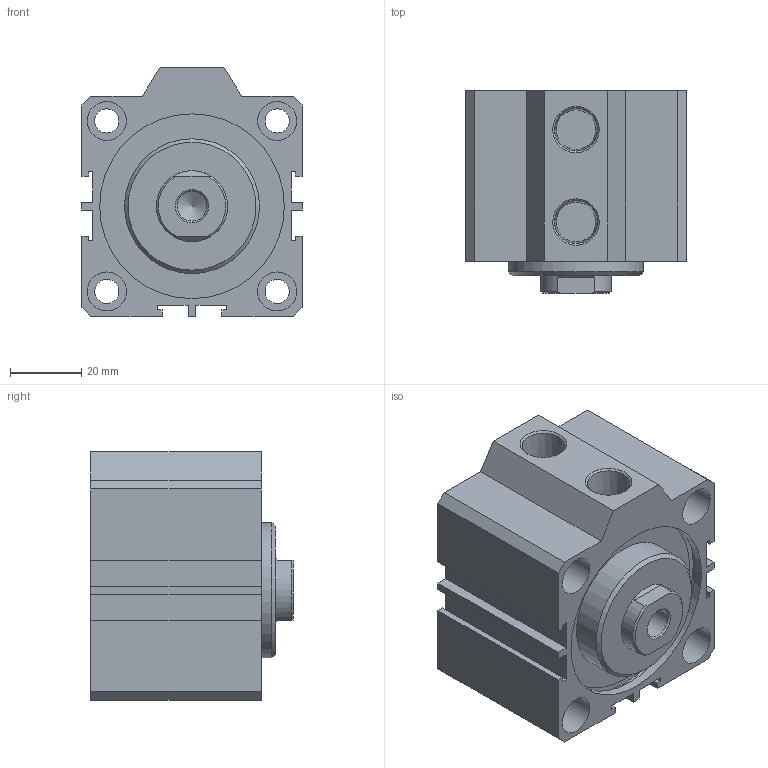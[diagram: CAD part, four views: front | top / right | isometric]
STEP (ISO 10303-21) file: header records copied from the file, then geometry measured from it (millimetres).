
FILE_DESCRIPTION(/* description */ ('Unknown'),/* implementation_level */ '2;1');
FILE_NAME(/* name */ 'WJ50-20',/* time_stamp */ '2026-07-17T16:17:30+08:00',/* author */ ('Unknown'),/* organization */ ('Unknown'),/* preprocessor_version */ 'ST-DEVELOPER v16.7',/* originating_system */ 'DEX',/* authorisation */ $);
FILE_SCHEMA (('CONFIG_CONTROL_DESIGN'));
Length unit declared in the file: millimetre
Products named in the file (5): WJ50-20; WJ50_本; WJ50_¤ß¶b¬¡æ; WJ50_玡嶈搵; WJ50_後
Assembly tree (4 placements, depth 2):
  WJ50-20
    WJ50_本
    WJ50_¤ß¶b¬¡æ
    WJ50_玡嶈搵
    WJ50_後
Bounding box: 62 x 57 x 70 mm (x, y, z)
Volume: 131854.1 mm3; surface area: 52288.8 mm2
Topology: 4 solids, 4 shells, 118 faces, 286 edges, 195 vertices
Faces by surface type: plane 79, cylinder 29, cone 10
Full cylindrical faces by diameter (mm): 6.8 x4, 8.376 x1, 11 x8, 11.2 x2, 20 x2, 38 x2, 49.5 x1, 50 x1, 52 x6, 55 x2
Entity records: 3953 total; most frequent: DIRECTION 538, CARTESIAN_POINT 534, ORIENTED_EDGE 452, EDGE_CURVE 226, AXIS2_PLACEMENT_3D 193, FACE_BOUND 187, EDGE_LOOP 186, VERTEX_POINT 173
